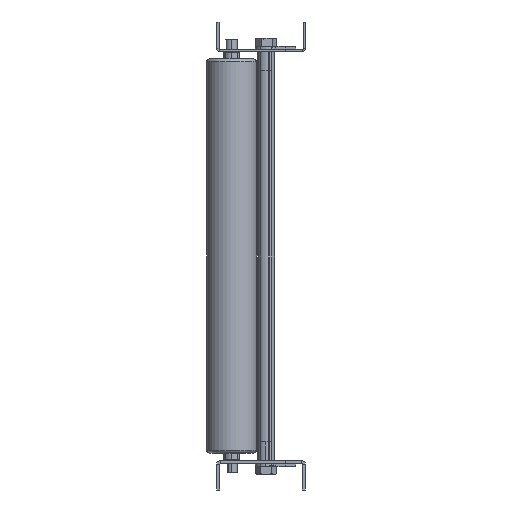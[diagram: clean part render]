
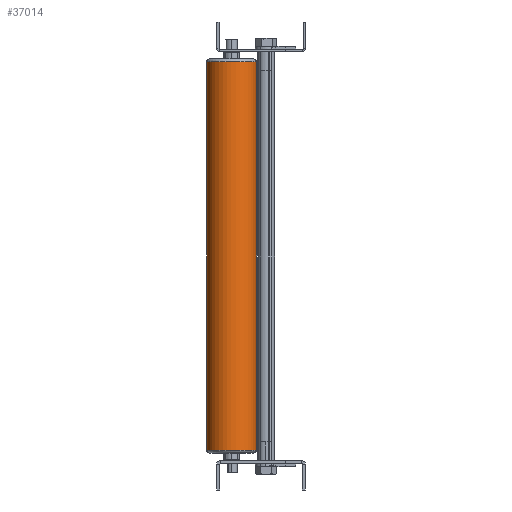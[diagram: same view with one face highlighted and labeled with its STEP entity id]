
A CAD part, left-side view. The second image highlights one B-rep face of the part: STEP entity #37014.
In plain terms, the highlighted cylindrical face has radius 25.4 mm (diameter 50.8 mm), a partial arc.
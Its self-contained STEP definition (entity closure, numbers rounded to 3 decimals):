
#356 = CARTESIAN_POINT ( 'NONE',  ( -1541.324, -336.994, -71.545 ) ) ;
#411 = AXIS2_PLACEMENT_3D ( 'NONE', #35639, #9624, #886 ) ;
#886 = DIRECTION ( 'NONE',  ( -0.179, -0.984, 0. ) ) ;
#1363 = DIRECTION ( 'NONE',  ( 0.179, 0.984, 0. ) ) ;
#2031 = CARTESIAN_POINT ( 'NONE',  ( -1532.212, -287.018, -465.545 ) ) ;
#3395 = LINE ( 'NONE', #20170, #7309 ) ;
#4087 = AXIS2_PLACEMENT_3D ( 'NONE', #10095, #21684, #1363 ) ;
#4517 = ORIENTED_EDGE ( 'NONE', *, *, #37246, .T. ) ;
#7309 = VECTOR ( 'NONE', #14443, 1000. ) ;
#9308 = EDGE_CURVE ( 'NONE', #11216, #16808, #16103, .T. ) ;
#9624 = DIRECTION ( 'NONE',  ( 0., 0., -1. ) ) ;
#9970 = EDGE_LOOP ( 'NONE', ( #16288, #4517, #33865, #25076 ) ) ;
#10095 = CARTESIAN_POINT ( 'NONE',  ( -1536.768, -312.006, -465.545 ) ) ;
#11216 = VERTEX_POINT ( 'NONE', #356 ) ;
#13262 = CARTESIAN_POINT ( 'NONE',  ( -1541.324, -336.994, -816.086 ) ) ;
#14443 = DIRECTION ( 'NONE',  ( 0., 0., -1. ) ) ;
#15631 = CARTESIAN_POINT ( 'NONE',  ( -1532.212, -287.018, -71.545 ) ) ;
#16103 = LINE ( 'NONE', #13262, #18905 ) ;
#16288 = ORIENTED_EDGE ( 'NONE', *, *, #28281, .T. ) ;
#16808 = VERTEX_POINT ( 'NONE', #32320 ) ;
#18664 = CIRCLE ( 'NONE', #4087, 25.4 ) ;
#18905 = VECTOR ( 'NONE', #31114, 1000. ) ;
#18991 = FACE_OUTER_BOUND ( 'NONE', #9970, .T. ) ;
#20170 = CARTESIAN_POINT ( 'NONE',  ( -1532.212, -287.018, -816.086 ) ) ;
#20341 = VERTEX_POINT ( 'NONE', #15631 ) ;
#21639 = CYLINDRICAL_SURFACE ( 'NONE', #28537, 25.4 ) ;
#21684 = DIRECTION ( 'NONE',  ( 0., 0., 1. ) ) ;
#24676 = DIRECTION ( 'NONE',  ( 0., 0., -1. ) ) ;
#25076 = ORIENTED_EDGE ( 'NONE', *, *, #9308, .F. ) ;
#28281 = EDGE_CURVE ( 'NONE', #11216, #20341, #36229, .T. ) ;
#28537 = AXIS2_PLACEMENT_3D ( 'NONE', #29988, #24676, #36449 ) ;
#28693 = EDGE_CURVE ( 'NONE', #32630, #16808, #18664, .T. ) ;
#29988 = CARTESIAN_POINT ( 'NONE',  ( -1536.768, -312.006, -816.086 ) ) ;
#31114 = DIRECTION ( 'NONE',  ( 0., 0., -1. ) ) ;
#32320 = CARTESIAN_POINT ( 'NONE',  ( -1541.324, -336.994, -465.545 ) ) ;
#32630 = VERTEX_POINT ( 'NONE', #2031 ) ;
#33865 = ORIENTED_EDGE ( 'NONE', *, *, #28693, .T. ) ;
#35639 = CARTESIAN_POINT ( 'NONE',  ( -1536.768, -312.006, -71.545 ) ) ;
#36229 = CIRCLE ( 'NONE', #411, 25.4 ) ;
#36449 = DIRECTION ( 'NONE',  ( -0.179, -0.984, 0. ) ) ;
#37014 = ADVANCED_FACE ( 'NONE', ( #18991 ), #21639, .T. ) ;
#37246 = EDGE_CURVE ( 'NONE', #20341, #32630, #3395, .T. ) ;
